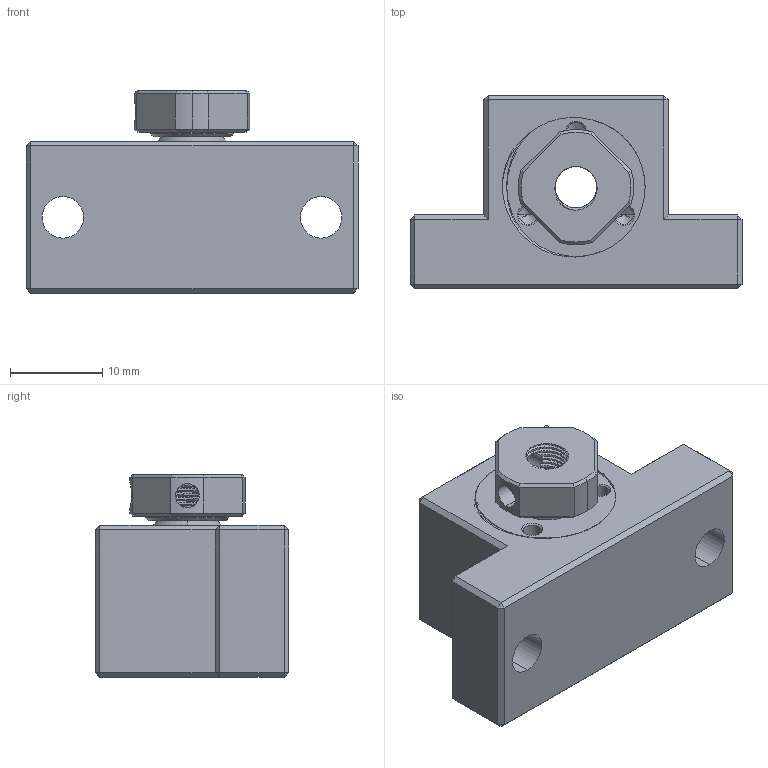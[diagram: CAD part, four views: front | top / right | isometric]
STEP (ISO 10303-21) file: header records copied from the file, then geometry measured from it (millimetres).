
FILE_DESCRIPTION (( 'STEP AP203' ), '1' );
FILE_NAME ('EK05²Õ¦X¥ó.STEP', '2010-07-02T01:15:35', ( '' ), ( '' ), 'SwSTEP 2.0', 'SolidWorks 2008', '' );
FILE_SCHEMA (( 'CONFIG_CONTROL_DESIGN' ));
Length unit declared in the file: millimetre
Products named in the file (1): EK05組合件
Bounding box: 36 x 21 x 22 mm (x, y, z)
Volume: 8118.7 mm3; surface area: 7628.3 mm2
Topology: 34 solids, 34 shells, 374 faces, 907 edges, 554 vertices
Faces by surface type: cylinder 106, plane 80, torus 62, cone 51, sphere 48, bspline 27
Entity records: 22889 total; most frequent: CARTESIAN_POINT 15093, DIRECTION 1641, ORIENTED_EDGE 1562, EDGE_CURVE 781, AXIS2_PLACEMENT_3D 700, VERTEX_POINT 482, EDGE_LOOP 409, ADVANCED_FACE 374
